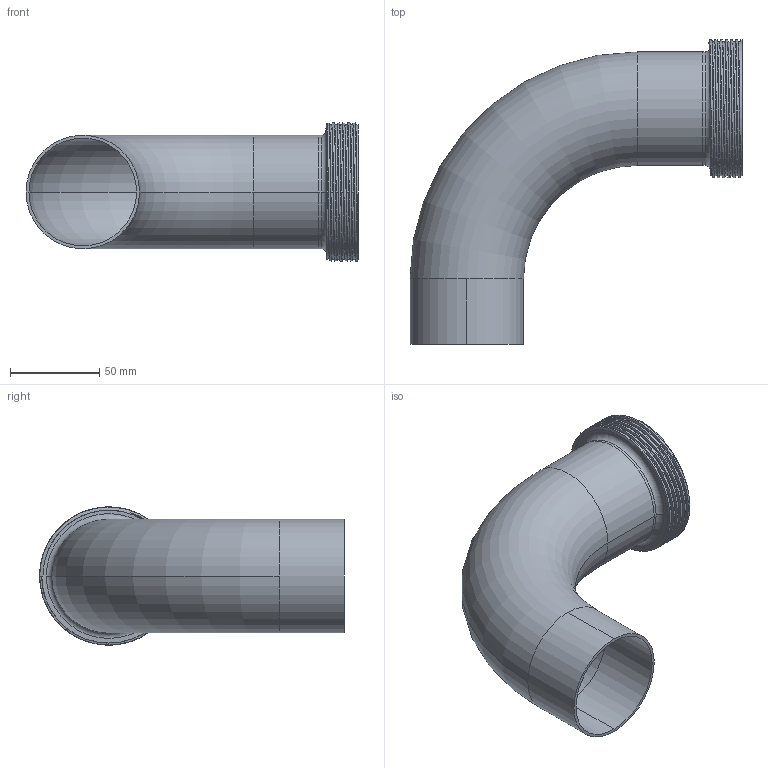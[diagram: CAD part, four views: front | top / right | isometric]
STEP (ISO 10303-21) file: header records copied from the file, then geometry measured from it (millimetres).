
FILE_DESCRIPTION (( 'STEP AP203' ), '1' );
FILE_NAME ('E2T2.5.STEP', '2018-05-02T14:52:57', ( 'vneprd' ), ( 'Microsoft' ), 'SwSTEP 2.0', 'SolidWorks 2014', '' );
FILE_SCHEMA (( 'CONFIG_CONTROL_DESIGN' ));
Length unit declared in the file: inch
Products named in the file (3): E2S2.5; 15TR2.5; E2T2.5
Assembly tree (2 placements, depth 2):
  E2T2.5
    E2S2.5
    15TR2.5
Bounding box: 185.7 x 170.4 x 77.29 mm (x, y, z)
Volume: 101292.1 mm3; surface area: 101520.4 mm2
Topology: 2 solids, 2 shells, 45 faces, 112 edges, 72 vertices
Faces by surface type: cylinder 26, plane 7, torus 6, bspline 4, cone 2
Entity records: 3138 total; most frequent: CARTESIAN_POINT 1816, ORIENTED_EDGE 224, DIRECTION 215, EDGE_CURVE 112, AXIS2_PLACEMENT_3D 89, VERTEX_POINT 72, EDGE_LOOP 50, FACE_OUTER_BOUND 45
